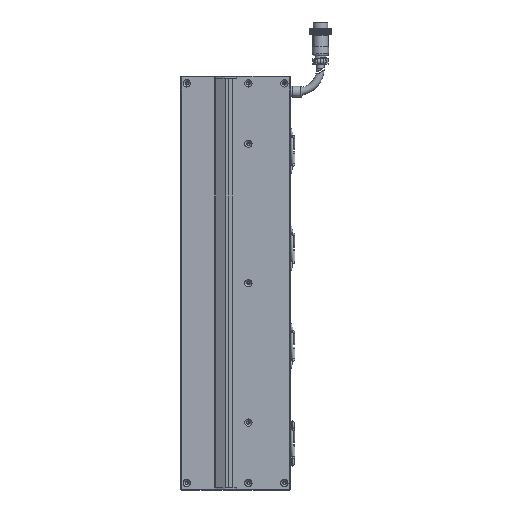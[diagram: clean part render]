
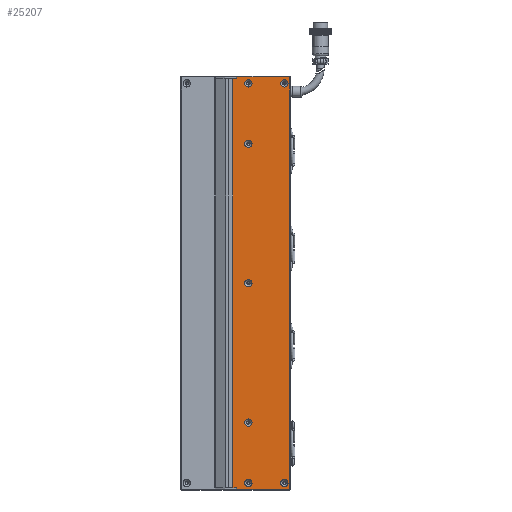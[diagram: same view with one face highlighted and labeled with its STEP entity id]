
A CAD part, left-side view. The second image highlights one B-rep face of the part: STEP entity #25207.
In plain terms, the highlighted planar face has unit normal (-1, 0, 0).
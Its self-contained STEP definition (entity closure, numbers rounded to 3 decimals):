
#667 = CARTESIAN_POINT ( 'NONE',  ( -24.998, -36.5, 123.15 ) ) ;
#1252 = LINE ( 'NONE', #144588, #23597 ) ;
#2063 = VERTEX_POINT ( 'NONE', #55608 ) ;
#2501 = EDGE_LOOP ( 'NONE', ( #64958 ) ) ;
#2669 = VERTEX_POINT ( 'NONE', #51397 ) ;
#3676 = DIRECTION ( 'NONE',  ( 0., 0., 1. ) ) ;
#5089 = LINE ( 'NONE', #52586, #135066 ) ;
#5374 = VERTEX_POINT ( 'NONE', #55720 ) ;
#6707 = FACE_BOUND ( 'NONE', #16644, .T. ) ;
#14186 = FACE_BOUND ( 'NONE', #105354, .T. ) ;
#16358 = EDGE_CURVE ( 'NONE', #115327, #115327, #92393, .T. ) ;
#16644 = EDGE_LOOP ( 'NONE', ( #118624 ) ) ;
#17110 = ORIENTED_EDGE ( 'NONE', *, *, #54067, .F. ) ;
#17232 = CARTESIAN_POINT ( 'NONE',  ( -24.998, -67.5, 175.15 ) ) ;
#17585 = DIRECTION ( 'NONE',  ( 0., 0., 1. ) ) ;
#17755 = CARTESIAN_POINT ( 'NONE',  ( -24.998, -26.5, 176. ) ) ;
#18015 = CARTESIAN_POINT ( 'NONE',  ( -24.998, -36.5, 172. ) ) ;
#19998 = DIRECTION ( 'NONE',  ( 0., 0., 1. ) ) ;
#21047 = EDGE_CURVE ( 'NONE', #2063, #2063, #94627, .T. ) ;
#21248 = CARTESIAN_POINT ( 'NONE',  ( -24.998, -36.5, -116.85 ) ) ;
#21424 = EDGE_CURVE ( 'NONE', #117139, #117139, #70337, .T. ) ;
#23296 = EDGE_CURVE ( 'NONE', #78037, #78037, #45941, .T. ) ;
#23597 = VECTOR ( 'NONE', #108230, 1000. ) ;
#25207 = ADVANCED_FACE ( 'NONE', ( #6707, #142225, #121812, #118065, #34510, #66003, #14186, #125519 ), #131234, .F. ) ;
#25631 = VECTOR ( 'NONE', #118932, 1000. ) ;
#26724 = VERTEX_POINT ( 'NONE', #55454 ) ;
#26777 = DIRECTION ( 'NONE',  ( 0., 0., 1. ) ) ;
#26861 = DIRECTION ( 'NONE',  ( 0., 0., -1. ) ) ;
#27225 = AXIS2_PLACEMENT_3D ( 'NONE', #118802, #142185, #70999 ) ;
#28371 = CARTESIAN_POINT ( 'NONE',  ( -24.998, -26.5, -169. ) ) ;
#28706 = EDGE_CURVE ( 'NONE', #107173, #30281, #131344, .T. ) ;
#28900 = DIRECTION ( 'NONE',  ( -1., 0., 0. ) ) ;
#29236 = LINE ( 'NONE', #138828, #120218 ) ;
#30281 = VERTEX_POINT ( 'NONE', #17755 ) ;
#30984 = ORIENTED_EDGE ( 'NONE', *, *, #76611, .T. ) ;
#31156 = VECTOR ( 'NONE', #3676, 1000. ) ;
#31535 = EDGE_CURVE ( 'NONE', #5374, #2669, #1252, .T. ) ;
#31873 = CARTESIAN_POINT ( 'NONE',  ( -24.998, -26.5, -176. ) ) ;
#33362 = CARTESIAN_POINT ( 'NONE',  ( -24.998, -36.5, -168.85 ) ) ;
#33582 = CARTESIAN_POINT ( 'NONE',  ( -24.998, -23.25, -176. ) ) ;
#34510 = FACE_BOUND ( 'NONE', #54645, .T. ) ;
#37716 = ORIENTED_EDGE ( 'NONE', *, *, #83447, .T. ) ;
#40303 = DIRECTION ( 'NONE',  ( -1., 0., 0. ) ) ;
#42336 = CARTESIAN_POINT ( 'NONE',  ( -24.998, -72.5, -176. ) ) ;
#44081 = DIRECTION ( 'NONE',  ( -1., 0., 0. ) ) ;
#45771 = AXIS2_PLACEMENT_3D ( 'NONE', #91325, #44081, #126152 ) ;
#45941 = CIRCLE ( 'NONE', #91673, 3.15 ) ;
#46769 = ORIENTED_EDGE ( 'NONE', *, *, #21047, .F. ) ;
#50936 = CIRCLE ( 'NONE', #137138, 3.15 ) ;
#51397 = CARTESIAN_POINT ( 'NONE',  ( -24.998, -26.5, 177.5 ) ) ;
#51572 = CARTESIAN_POINT ( 'NONE',  ( -24.998, -36.5, -172. ) ) ;
#51607 = LINE ( 'NONE', #42336, #25631 ) ;
#52586 = CARTESIAN_POINT ( 'NONE',  ( -24.998, -72.5, -177.5 ) ) ;
#52925 = EDGE_CURVE ( 'NONE', #137403, #137403, #85049, .T. ) ;
#53605 = EDGE_LOOP ( 'NONE', ( #46769 ) ) ;
#54067 = EDGE_CURVE ( 'NONE', #88038, #107173, #29236, .T. ) ;
#54395 = AXIS2_PLACEMENT_3D ( 'NONE', #51572, #73894, #26777 ) ;
#54645 = EDGE_LOOP ( 'NONE', ( #79118 ) ) ;
#55395 = VERTEX_POINT ( 'NONE', #17232 ) ;
#55454 = CARTESIAN_POINT ( 'NONE',  ( -24.998, -26.5, -177.5 ) ) ;
#55608 = CARTESIAN_POINT ( 'NONE',  ( -24.998, -36.5, 3.15 ) ) ;
#55720 = CARTESIAN_POINT ( 'NONE',  ( -24.998, -72., 177.5 ) ) ;
#56033 = ORIENTED_EDGE ( 'NONE', *, *, #16358, .F. ) ;
#56182 = CARTESIAN_POINT ( 'NONE',  ( -24.998, -23.25, 176. ) ) ;
#59023 = ORIENTED_EDGE ( 'NONE', *, *, #116520, .F. ) ;
#62994 = VERTEX_POINT ( 'NONE', #31873 ) ;
#63278 = CARTESIAN_POINT ( 'NONE',  ( -24.998, -36.5, 120. ) ) ;
#64805 = DIRECTION ( 'NONE',  ( -1., 0., 0. ) ) ;
#64958 = ORIENTED_EDGE ( 'NONE', *, *, #23296, .F. ) ;
#66003 = FACE_BOUND ( 'NONE', #53605, .T. ) ;
#68121 = DIRECTION ( 'NONE',  ( 0., 0., 1. ) ) ;
#68212 = VERTEX_POINT ( 'NONE', #21248 ) ;
#68325 = ORIENTED_EDGE ( 'NONE', *, *, #110488, .T. ) ;
#69247 = ORIENTED_EDGE ( 'NONE', *, *, #28706, .F. ) ;
#70337 = CIRCLE ( 'NONE', #130395, 3.15 ) ;
#70999 = DIRECTION ( 'NONE',  ( 0., 0., -1. ) ) ;
#73894 = DIRECTION ( 'NONE',  ( -1., 0., 0. ) ) ;
#74235 = ORIENTED_EDGE ( 'NONE', *, *, #128892, .T. ) ;
#76611 = EDGE_CURVE ( 'NONE', #2669, #30281, #130298, .T. ) ;
#76655 = AXIS2_PLACEMENT_3D ( 'NONE', #63278, #28900, #68121 ) ;
#78037 = VERTEX_POINT ( 'NONE', #128319 ) ;
#79118 = ORIENTED_EDGE ( 'NONE', *, *, #148141, .F. ) ;
#83415 = EDGE_CURVE ( 'NONE', #88038, #62994, #51607, .T. ) ;
#83447 = EDGE_CURVE ( 'NONE', #62994, #26724, #148177, .T. ) ;
#85049 = CIRCLE ( 'NONE', #76655, 3.15 ) ;
#86753 = DIRECTION ( 'NONE',  ( -1., 0., 0. ) ) ;
#88038 = VERTEX_POINT ( 'NONE', #33582 ) ;
#91325 = CARTESIAN_POINT ( 'NONE',  ( -24.998, -36.5, 0. ) ) ;
#91673 = AXIS2_PLACEMENT_3D ( 'NONE', #18015, #40303, #135293 ) ;
#92393 = CIRCLE ( 'NONE', #54395, 3.15 ) ;
#94250 = LINE ( 'NONE', #99548, #31156 ) ;
#94627 = CIRCLE ( 'NONE', #45771, 3.15 ) ;
#96599 = ORIENTED_EDGE ( 'NONE', *, *, #52925, .F. ) ;
#96812 = CARTESIAN_POINT ( 'NONE',  ( -24.998, -26.5, 169. ) ) ;
#98439 = AXIS2_PLACEMENT_3D ( 'NONE', #112152, #86753, #122574 ) ;
#98696 = VECTOR ( 'NONE', #108259, 1000. ) ;
#99548 = CARTESIAN_POINT ( 'NONE',  ( -24.998, -72., 176. ) ) ;
#105354 = EDGE_LOOP ( 'NONE', ( #96599 ) ) ;
#107173 = VERTEX_POINT ( 'NONE', #56182 ) ;
#108230 = DIRECTION ( 'NONE',  ( 0., 1., 0. ) ) ;
#108259 = DIRECTION ( 'NONE',  ( 0., 0., -1. ) ) ;
#110488 = EDGE_CURVE ( 'NONE', #26724, #129954, #5089, .T. ) ;
#112152 = CARTESIAN_POINT ( 'NONE',  ( -24.998, -36.5, -120. ) ) ;
#112843 = VECTOR ( 'NONE', #26861, 1000. ) ;
#113829 = EDGE_LOOP ( 'NONE', ( #59023 ) ) ;
#115327 = VERTEX_POINT ( 'NONE', #33362 ) ;
#115866 = CARTESIAN_POINT ( 'NONE',  ( -24.998, -72., -177.5 ) ) ;
#116520 = EDGE_CURVE ( 'NONE', #55395, #55395, #50936, .T. ) ;
#117116 = CIRCLE ( 'NONE', #98439, 3.15 ) ;
#117139 = VERTEX_POINT ( 'NONE', #151186 ) ;
#118065 = FACE_BOUND ( 'NONE', #113829, .T. ) ;
#118624 = ORIENTED_EDGE ( 'NONE', *, *, #21424, .F. ) ;
#118802 = CARTESIAN_POINT ( 'NONE',  ( -24.998, -72.5, 176. ) ) ;
#118932 = DIRECTION ( 'NONE',  ( 0., -1., 0. ) ) ;
#120218 = VECTOR ( 'NONE', #19998, 1000. ) ;
#121812 = FACE_BOUND ( 'NONE', #2501, .T. ) ;
#121907 = CARTESIAN_POINT ( 'NONE',  ( -24.998, -67.5, -172. ) ) ;
#122574 = DIRECTION ( 'NONE',  ( 0., 0., 1. ) ) ;
#125519 = FACE_OUTER_BOUND ( 'NONE', #152472, .T. ) ;
#126152 = DIRECTION ( 'NONE',  ( 0., 0., 1. ) ) ;
#128319 = CARTESIAN_POINT ( 'NONE',  ( -24.998, -36.5, 175.15 ) ) ;
#128892 = EDGE_CURVE ( 'NONE', #129954, #5374, #94250, .T. ) ;
#129954 = VERTEX_POINT ( 'NONE', #115866 ) ;
#130298 = LINE ( 'NONE', #96812, #98696 ) ;
#130395 = AXIS2_PLACEMENT_3D ( 'NONE', #121907, #136902, #17585 ) ;
#131234 = PLANE ( 'NONE',  #27225 ) ;
#131344 = LINE ( 'NONE', #146641, #135080 ) ;
#135066 = VECTOR ( 'NONE', #149169, 1000. ) ;
#135080 = VECTOR ( 'NONE', #147153, 1000. ) ;
#135293 = DIRECTION ( 'NONE',  ( 0., 0., 1. ) ) ;
#136902 = DIRECTION ( 'NONE',  ( -1., 0., 0. ) ) ;
#137034 = DIRECTION ( 'NONE',  ( 0., 0., 1. ) ) ;
#137138 = AXIS2_PLACEMENT_3D ( 'NONE', #146974, #64805, #137034 ) ;
#137403 = VERTEX_POINT ( 'NONE', #667 ) ;
#138352 = ORIENTED_EDGE ( 'NONE', *, *, #31535, .T. ) ;
#138828 = CARTESIAN_POINT ( 'NONE',  ( -24.998, -23.25, -176. ) ) ;
#142185 = DIRECTION ( 'NONE',  ( 1., 0., 0. ) ) ;
#142225 = FACE_BOUND ( 'NONE', #151671, .T. ) ;
#144588 = CARTESIAN_POINT ( 'NONE',  ( -24.998, -72.5, 177.5 ) ) ;
#146641 = CARTESIAN_POINT ( 'NONE',  ( -24.998, -72.5, 176. ) ) ;
#146974 = CARTESIAN_POINT ( 'NONE',  ( -24.998, -67.5, 172. ) ) ;
#147153 = DIRECTION ( 'NONE',  ( 0., -1., 0. ) ) ;
#148141 = EDGE_CURVE ( 'NONE', #68212, #68212, #117116, .T. ) ;
#148177 = LINE ( 'NONE', #28371, #112843 ) ;
#149169 = DIRECTION ( 'NONE',  ( 0., -1., 0. ) ) ;
#149908 = ORIENTED_EDGE ( 'NONE', *, *, #83415, .T. ) ;
#151186 = CARTESIAN_POINT ( 'NONE',  ( -24.998, -67.5, -168.85 ) ) ;
#151671 = EDGE_LOOP ( 'NONE', ( #56033 ) ) ;
#152472 = EDGE_LOOP ( 'NONE', ( #149908, #37716, #68325, #74235, #138352, #30984, #69247, #17110 ) ) ;
